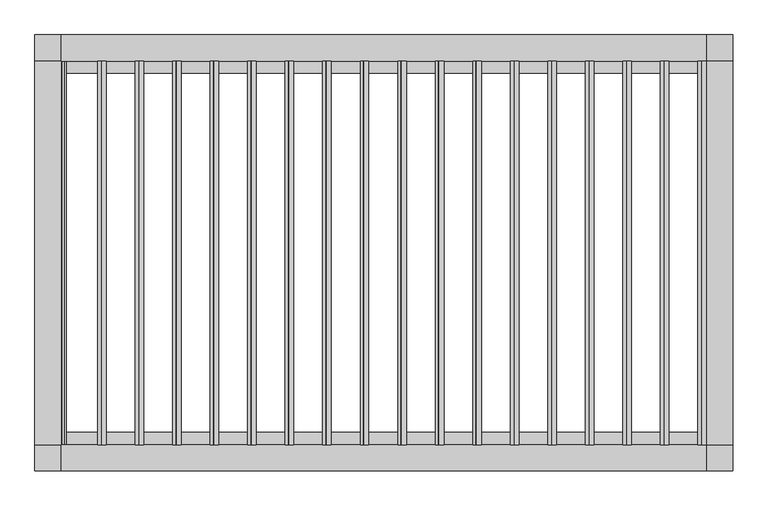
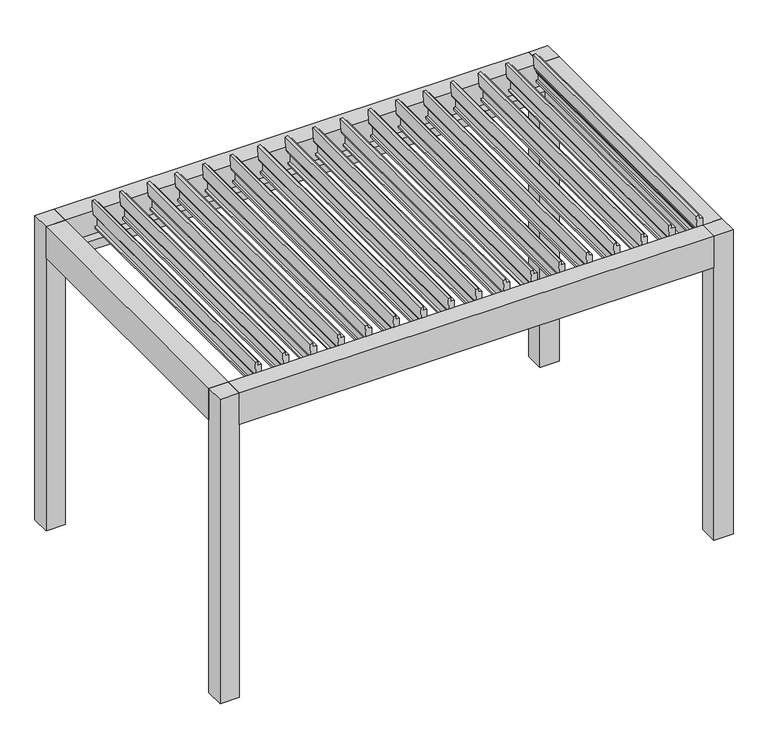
"""IFC4 building model written with IfcOpenShell, lengths in millimetres: proxy geometry, Renson_Camargue_Freestanding_Patio covers : Renson_Camargue_Freestanding_Patio covers."""

import ifcopenshell
import ifcopenshell.guid

model = None  # the IFC model being written
_history = None  # IfcOwnerHistory: only IFC2X3 demands one
_inside = {}  # id of a spatial element -> (the spatial element, [elements in it])
_under = {}  # id of a project, library or spatial element -> (it, [spatial elements below it])
_declared = {}  # id of a project -> (the project, [libraries it declares])
_typed = {}  # id of a type object -> (the type object, [elements of that type])
_made_of = {}  # id of a material, layer set ... -> (it, [elements and type objects made of it])


def new_model(schema):
    """Start an empty IFC model of exactly this schema.

    Asked for "IFC4X3", IfcOpenShell would pick the latest addendum, in which some entities
    have other attributes; the version numbers below select the first issue.
    IFC2X3 requires an IfcOwnerHistory on every rooted entity: one is made here for all.
    """
    global model, _history
    if schema == "IFC4X3":
        model = ifcopenshell.file(schema_version=(4, 3, 0, 0))
    else:
        model = ifcopenshell.file(schema=schema)
    _inside.clear()
    _under.clear()
    _declared.clear()
    _typed.clear()
    _made_of.clear()
    _history = None
    if model.schema == "IFC2X3":
        org = make("IfcOrganization", Name="unknown")
        user = make(
            "IfcPersonAndOrganization",
            ThePerson=make("IfcPerson", FamilyName="unknown"),
            TheOrganization=org,
        )
        app = make(
            "IfcApplication",
            ApplicationDeveloper=org,
            Version="unknown",
            ApplicationFullName="unknown",
            ApplicationIdentifier="unknown",
        )
        _history = make(
            "IfcOwnerHistory",
            OwningUser=user,
            OwningApplication=app,
            ChangeAction="ADDED",
            CreationDate=0,
        )
    return model


def make(cls, **values):
    """One entity of the class cls with the attributes given. An attribute that is None is left unset."""
    return model.create_entity(
        cls, **{name: value for name, value in values.items() if value is not None}
    )


def rooted(cls, **values):
    """An entity with a GlobalId (a new one), such as an element, a storey or a relation."""
    return make(cls, GlobalId=ifcopenshell.guid.new(), OwnerHistory=_history, **values)


def si_unit(unit_type, name, prefix=None):
    """IfcSIUnit, for example si_unit("LENGTHUNIT", "METRE", prefix="MILLI")."""
    return make("IfcSIUnit", UnitType=unit_type, Prefix=prefix, Name=name)


def assignment(units):
    """IfcUnitAssignment: the units of a project."""
    return None if units is None else make("IfcUnitAssignment", Units=units)


def point(xyz):
    """IfcCartesianPoint."""
    return None if xyz is None else make("IfcCartesianPoint", Coordinates=xyz)


def direction(xyz):
    """IfcDirection."""
    return None if xyz is None else make("IfcDirection", DirectionRatios=xyz)


def frame(location, z_axis=None, x_axis=None):
    """IfcAxis2Placement3D, a coordinate frame: its origin and axes. An axis left out is left unset."""
    return make(
        "IfcAxis2Placement3D",
        Location=point(location),
        Axis=direction(z_axis),
        RefDirection=direction(x_axis),
    )


def frame_2d(location, x_axis=None):
    """IfcAxis2Placement2D, a coordinate frame in the plane: its origin and x axis."""
    return make(
        "IfcAxis2Placement2D", Location=point(location), RefDirection=direction(x_axis)
    )


def origin():
    """The frame at (0, 0, 0) with its axes left unset."""
    return frame((0.0, 0.0, 0.0))


def origin_with_axes():
    """The frame at (0, 0, 0) with the z axis (0, 0, 1) and the x axis (1, 0, 0) written out."""
    return frame((0.0, 0.0, 0.0), z_axis=(0.0, 0.0, 1.0), x_axis=(1.0, 0.0, 0.0))


def place(relative_to, where):
    """IfcLocalPlacement: puts the frame where relative to a parent placement (None: the world)."""
    return make(
        "IfcLocalPlacement", PlacementRelTo=relative_to, RelativePlacement=where
    )


def context(
    kind, dimensions, precision=None, world=None, true_north=None, identifier=None
):
    """IfcGeometricRepresentationContext, for example the 3D "Model" context."""
    return make(
        "IfcGeometricRepresentationContext",
        ContextIdentifier=identifier,
        ContextType=kind,
        CoordinateSpaceDimension=dimensions,
        Precision=precision,
        WorldCoordinateSystem=world,
        TrueNorth=true_north,
    )


def project(units=None, contexts=None):
    """IfcProject with its units and contexts."""
    return rooted(
        "IfcProject",
        Name="project",
        RepresentationContexts=contexts,
        UnitsInContext=assignment(units),
    )


def spatial(cls, under=None, at=None, **own):
    """A site, building, storey or space (cls), placed at a placement, below another one or the project."""
    s = rooted(cls, ObjectPlacement=at, **own)
    if under is not None:
        _under.setdefault(under.id(), (under, []))[1].append(s)
    return s


def polyline(points):
    """IfcPolyline through the points."""
    return make("IfcPolyline", Points=[point(p) for p in points])


def circle_curve(where, radius):
    """IfcCircle in the frame where."""
    return make("IfcCircle", Position=where, Radius=radius)


def trimmed(basis, trim1, trim2, sense, master):
    """IfcTrimmedCurve: the piece of a basis curve between two trims."""
    return make(
        "IfcTrimmedCurve",
        BasisCurve=basis,
        Trim1=trim1,
        Trim2=trim2,
        SenseAgreement=sense,
        MasterRepresentation=master,
    )


def segment(curve, same_sense, transition):
    """IfcCompositeCurveSegment."""
    return make(
        "IfcCompositeCurveSegment",
        Transition=transition,
        SameSense=same_sense,
        ParentCurve=curve,
    )


def composite_curve(segments, self_intersect=None):
    """IfcCompositeCurve: segments joined end to end."""
    return make("IfcCompositeCurve", Segments=segments, SelfIntersect=self_intersect)


def outline(outer, holes=None, kind="AREA"):
    """IfcArbitraryClosedProfileDef: a profile drawn as a closed curve; with holes, ...WithVoids."""
    if holes is None:
        return make("IfcArbitraryClosedProfileDef", ProfileType=kind, OuterCurve=outer)
    return make(
        "IfcArbitraryProfileDefWithVoids",
        ProfileType=kind,
        OuterCurve=outer,
        InnerCurves=holes,
    )


def extrude(swept, where, along, depth):
    """IfcExtrudedAreaSolid: the profile swept, set in the frame where, extruded along a direction by depth."""
    return make(
        "IfcExtrudedAreaSolid",
        SweptArea=swept,
        Position=where,
        ExtrudedDirection=direction(along),
        Depth=depth,
    )


def shape(context_of_items, identifier, shape_type, items):
    """IfcShapeRepresentation: the items that make up one representation, for example the "Body"."""
    return make(
        "IfcShapeRepresentation",
        ContextOfItems=context_of_items,
        RepresentationIdentifier=identifier,
        RepresentationType=shape_type,
        Items=items,
    )


def source(mapping_origin, context_of_items, identifier, shape_type, items):
    """IfcRepresentationMap: a shape defined once, which mapped items show again and again."""
    return make(
        "IfcRepresentationMap",
        MappingOrigin=mapping_origin,
        MappedRepresentation=shape(context_of_items, identifier, shape_type, items),
    )


def transform(
    local_origin,
    x_axis=None,
    y_axis=None,
    z_axis=None,
    scale=None,
    scale2=None,
    scale3=None,
    uniform=True,
):
    """IfcCartesianTransformationOperator3D, or its non-uniform kind. x_axis, y_axis, z_axis: its Axis1, 2, 3."""
    if uniform:
        return make(
            "IfcCartesianTransformationOperator3D",
            Axis1=direction(x_axis),
            Axis2=direction(y_axis),
            LocalOrigin=point(local_origin),
            Scale=scale,
            Axis3=direction(z_axis),
        )
    return make(
        "IfcCartesianTransformationOperator3DnonUniform",
        Axis1=direction(x_axis),
        Axis2=direction(y_axis),
        LocalOrigin=point(local_origin),
        Scale=scale,
        Axis3=direction(z_axis),
        Scale2=scale2,
        Scale3=scale3,
    )


def mapped(mapping_source, mapping_target):
    """IfcMappedItem: shows the shape of a source again, moved by a transform."""
    return make(
        "IfcMappedItem", MappingSource=mapping_source, MappingTarget=mapping_target
    )


def made_of(thing, what):
    """Note that an element or type object is made of a material, layer set ...; save() writes the relation."""
    if what is not None:
        _made_of.setdefault(what.id(), (what, []))[1].append(thing)
    return thing


def element(
    cls,
    number,
    at=None,
    inside=None,
    cuts=None,
    type_object=None,
    material=None,
    context=None,
    identifier="Body",
    shape_type=None,
    held_by="IfcProductDefinitionShape",
    body=None,
    shapes=None,
    **own,
):
    """One element of the class cls, such as IfcWall. Its Tag is "e" and its number.

    at: its placement. inside: the storey or other place that contains it. cuts: it is an
    opening in that element (IfcRelVoidsElement). A single representation is given by context,
    identifier, shape_type and body (its items); several are given by shapes. held_by: the class
    of the entity that holds the representations. save() writes the other relations.
    """
    e = rooted(cls, Tag="e%d" % number, ObjectPlacement=at, **own)
    if body is not None:
        shapes = [shape(context, identifier, shape_type, body)]
    if shapes is not None:
        e.Representation = make(held_by, Representations=shapes)
    if inside is not None:
        _inside.setdefault(inside.id(), (inside, []))[1].append(e)
    if cuts is not None:
        rooted(
            "IfcRelVoidsElement", RelatingBuildingElement=cuts, RelatedOpeningElement=e
        )
    if type_object is not None:
        _typed.setdefault(type_object.id(), (type_object, []))[1].append(e)
    return made_of(e, material)


def aggregate(whole, parts):
    """IfcRelAggregates: a whole, such as a stair, and the parts it consists of."""
    return rooted("IfcRelAggregates", RelatingObject=whole, RelatedObjects=parts)


def save(model, path):
    """Write the relations noted so far, then the file.

    IfcRelAggregates (storeys below a building ...), IfcRelContainedInSpatialStructure (elements
    in a storey), IfcRelDefinesByType, IfcRelAssociatesMaterial and IfcRelDeclares: one each for
    every whole, place, type object, material and project.
    """
    for whole, parts in _under.values():
        aggregate(whole, parts)
    for where, things in _inside.values():
        rooted(
            "IfcRelContainedInSpatialStructure",
            RelatedElements=things,
            RelatingStructure=where,
        )
    for kind, things in _typed.values():
        rooted("IfcRelDefinesByType", RelatedObjects=things, RelatingType=kind)
    for what, things in _made_of.values():
        rooted("IfcRelAssociatesMaterial", RelatedObjects=things, RelatingMaterial=what)
    for by, libraries in _declared.values():
        rooted("IfcRelDeclares", RelatingContext=by, RelatedDefinitions=libraries)
    model.write(path)


def generic_models_b33c69de(model_context):
    return source(origin(), model_context, "Body", "SweptSolid", [
        extrude(outline(composite_curve([segment(polyline([(2569.449345, 1634.0362316), (2571.8694547, 1606.3742516), (2600.7047051, 1604.9891952), (2597.2673741, 1585.495122), (2487.2702592, 1590.7786623)]), True, "CONTINUOUS"), segment(trimmed(circle_curve(frame_2d((2487.9899311, 1605.7613881)), 15.0), [point((2487.2702592, 1590.7786623))], [point((2473.2178148, 1603.1566654))], False, "CARTESIAN"), True, "CONTINUOUS"), segment(polyline([(2473.2178148, 1603.1566654), (2469.8271235, 1622.3862316), (2382.0913475, 1622.3862316), (2379.0798901, 1605.3074079), (2363.8029196, 1606.0412134), (2361.3536729, 1634.0362316), (2569.449345, 1634.0362316)]), True, "CONTINUOUS")], self_intersect=False)), frame((0.0, -1100.0, 0.0), z_axis=(0.0, 1.0, 0.0), x_axis=(0.0, 0.0, 1.0)), (0.0, 0.0, 1.0), 2200.0),
        extrude(outline(composite_curve([segment(polyline([(2569.449345, 1419.0254268), (2571.8694547, 1391.3634468), (2600.7047051, 1389.9783904), (2597.2673741, 1370.4843172), (2487.2702592, 1375.7678575)]), True, "CONTINUOUS"), segment(trimmed(circle_curve(frame_2d((2487.9899311, 1390.7505833)), 15.0), [point((2487.2702592, 1375.7678575))], [point((2473.2178148, 1388.1458606))], False, "CARTESIAN"), True, "CONTINUOUS"), segment(polyline([(2473.2178148, 1388.1458606), (2469.8271235, 1407.3754268), (2382.0913475, 1407.3754268), (2379.0798901, 1390.2966031), (2363.8029196, 1391.0304086), (2361.3536729, 1419.0254268), (2569.449345, 1419.0254268)]), True, "CONTINUOUS")], self_intersect=False)), frame((0.0, -1100.0, 0.0), z_axis=(0.0, 1.0, 0.0), x_axis=(0.0, 0.0, 1.0)), (0.0, 0.0, 1.0), 2200.0),
        extrude(outline(composite_curve([segment(polyline([(2569.449345, 1204.014622), (2571.8694547, 1176.3526421), (2600.7047051, 1174.9675857), (2597.2673741, 1155.4735124), (2487.2702592, 1160.7570527)]), True, "CONTINUOUS"), segment(trimmed(circle_curve(frame_2d((2487.9899311, 1175.7397785)), 15.0), [point((2487.2702592, 1160.7570527))], [point((2473.2178148, 1173.1350559))], False, "CARTESIAN"), True, "CONTINUOUS"), segment(polyline([(2473.2178148, 1173.1350559), (2469.8271235, 1192.364622), (2382.0913475, 1192.364622), (2379.0798901, 1175.2857983), (2363.8029196, 1176.0196039), (2361.3536729, 1204.014622), (2569.449345, 1204.014622)]), True, "CONTINUOUS")], self_intersect=False)), frame((0.0, -1100.0, 0.0), z_axis=(0.0, 1.0, 0.0), x_axis=(0.0, 0.0, 1.0)), (0.0, 0.0, 1.0), 2200.0),
        extrude(outline(composite_curve([segment(polyline([(2569.449345, 989.0038172), (2571.8694547, 961.3418373), (2600.7047051, 959.9567809), (2597.2673741, 940.4627076), (2487.2702592, 945.7462479)]), True, "CONTINUOUS"), segment(trimmed(circle_curve(frame_2d((2487.9899311, 960.7289737)), 15.0), [point((2487.2702592, 945.7462479))], [point((2473.2178148, 958.1242511))], False, "CARTESIAN"), True, "CONTINUOUS"), segment(polyline([(2473.2178148, 958.1242511), (2469.8271235, 977.3538172), (2382.0913475, 977.3538172), (2379.0798901, 960.2749936), (2363.8029196, 961.0087991), (2361.3536729, 989.0038172), (2569.449345, 989.0038172)]), True, "CONTINUOUS")], self_intersect=False)), frame((0.0, -1100.0, 0.0), z_axis=(0.0, 1.0, 0.0), x_axis=(0.0, 0.0, 1.0)), (0.0, 0.0, 1.0), 2200.0),
        extrude(outline(composite_curve([segment(polyline([(2569.449345, 773.9930125), (2571.8694547, 746.3310325), (2600.7047051, 744.9459761), (2597.2673741, 725.4519029), (2487.2702592, 730.7354432)]), True, "CONTINUOUS"), segment(trimmed(circle_curve(frame_2d((2487.9899311, 745.718169)), 15.0), [point((2487.2702592, 730.7354432))], [point((2473.2178148, 743.1134463))], False, "CARTESIAN"), True, "CONTINUOUS"), segment(polyline([(2473.2178148, 743.1134463), (2469.8271235, 762.3430125), (2382.0913475, 762.3430125), (2379.0798901, 745.2641888), (2363.8029196, 745.9979943), (2361.3536729, 773.9930125), (2569.449345, 773.9930125)]), True, "CONTINUOUS")], self_intersect=False)), frame((0.0, -1100.0, 0.0), z_axis=(0.0, 1.0, 0.0), x_axis=(0.0, 0.0, 1.0)), (0.0, 0.0, 1.0), 2200.0),
        extrude(outline(composite_curve([segment(polyline([(2569.449345, 558.9822077), (2571.8694547, 531.3202277), (2600.7047051, 529.9351713), (2597.2673741, 510.4410981), (2487.2702592, 515.7246384)]), True, "CONTINUOUS"), segment(trimmed(circle_curve(frame_2d((2487.9899311, 530.7073642)), 15.0), [point((2487.2702592, 515.7246384))], [point((2473.2178148, 528.1026415))], False, "CARTESIAN"), True, "CONTINUOUS"), segment(polyline([(2473.2178148, 528.1026415), (2469.8271235, 547.3322077), (2382.0913475, 547.3322077), (2379.0798901, 530.253384), (2363.8029196, 530.9871895), (2361.3536729, 558.9822077), (2569.449345, 558.9822077)]), True, "CONTINUOUS")], self_intersect=False)), frame((0.0, -1100.0, 0.0), z_axis=(0.0, 1.0, 0.0), x_axis=(0.0, 0.0, 1.0)), (0.0, 0.0, 1.0), 2200.0),
        extrude(outline(composite_curve([segment(polyline([(2569.449345, 343.9714029), (2571.8694547, 316.3094229), (2600.7047051, 314.9243665), (2597.2673741, 295.4302933), (2487.2702592, 300.7138336)]), True, "CONTINUOUS"), segment(trimmed(circle_curve(frame_2d((2487.9899311, 315.6965594)), 15.0), [point((2487.2702592, 300.7138336))], [point((2473.2178148, 313.0918367))], False, "CARTESIAN"), True, "CONTINUOUS"), segment(polyline([(2473.2178148, 313.0918367), (2469.8271235, 332.3214029), (2382.0913475, 332.3214029), (2379.0798901, 315.2425792), (2363.8029196, 315.9763847), (2361.3536729, 343.9714029), (2569.449345, 343.9714029)]), True, "CONTINUOUS")], self_intersect=False)), frame((0.0, -1100.0, 0.0), z_axis=(0.0, 1.0, 0.0), x_axis=(0.0, 0.0, 1.0)), (0.0, 0.0, 1.0), 2200.0),
        extrude(outline(composite_curve([segment(polyline([(2569.449345, 128.9605981), (2571.8694547, 101.2986181), (2600.7047051, 99.9135617), (2597.2673741, 80.4194885), (2487.2702592, 85.7030288)]), True, "CONTINUOUS"), segment(trimmed(circle_curve(frame_2d((2487.9899311, 100.6857546)), 15.0), [point((2487.2702592, 85.7030288))], [point((2473.2178148, 98.081032))], False, "CARTESIAN"), True, "CONTINUOUS"), segment(polyline([(2473.2178148, 98.081032), (2469.8271235, 117.3105981), (2382.0913475, 117.3105981), (2379.0798901, 100.2317744), (2363.8029196, 100.9655799), (2361.3536729, 128.9605981), (2569.449345, 128.9605981)]), True, "CONTINUOUS")], self_intersect=False)), frame((0.0, -1100.0, 0.0), z_axis=(0.0, 1.0, 0.0), x_axis=(0.0, 0.0, 1.0)), (0.0, 0.0, 1.0), 2200.0),
        extrude(outline(composite_curve([segment(polyline([(2569.449345, -86.0502067), (2571.8694547, -113.7121866), (2600.7047051, -115.097243), (2597.2673741, -134.5913163), (2487.2702592, -129.307776)]), True, "CONTINUOUS"), segment(trimmed(circle_curve(frame_2d((2487.9899311, -114.3250502)), 15.0), [point((2487.2702592, -129.307776))], [point((2473.2178148, -116.9297728))], False, "CARTESIAN"), True, "CONTINUOUS"), segment(polyline([(2473.2178148, -116.9297728), (2469.8271235, -97.7002067), (2382.0913475, -97.7002067), (2379.0798901, -114.7790303), (2363.8029196, -114.0452248), (2361.3536729, -86.0502067), (2569.449345, -86.0502067)]), True, "CONTINUOUS")], self_intersect=False)), frame((0.0, -1100.0, 0.0), z_axis=(0.0, 1.0, 0.0), x_axis=(0.0, 0.0, 1.0)), (0.0, 0.0, 1.0), 2200.0),
        extrude(outline(composite_curve([segment(polyline([(2569.449345, -301.0610114), (2571.8694547, -328.7229914), (2600.7047051, -330.1080478), (2597.2673741, -349.6021211), (2487.2702592, -344.3185807)]), True, "CONTINUOUS"), segment(trimmed(circle_curve(frame_2d((2487.9899311, -329.3358549)), 15.0), [point((2487.2702592, -344.3185807))], [point((2473.2178148, -331.9405776))], False, "CARTESIAN"), True, "CONTINUOUS"), segment(polyline([(2473.2178148, -331.9405776), (2469.8271235, -312.7110115), (2382.0913475, -312.7110115), (2379.0798901, -329.7898351), (2363.8029196, -329.0560296), (2361.3536729, -301.0610114), (2569.449345, -301.0610114)]), True, "CONTINUOUS")], self_intersect=False)), frame((0.0, -1100.0, 0.0), z_axis=(0.0, 1.0, 0.0), x_axis=(0.0, 0.0, 1.0)), (0.0, 0.0, 1.0), 2200.0),
        extrude(outline(composite_curve([segment(polyline([(2569.449345, -516.0718162), (2571.8694547, -543.7337962), (2600.7047051, -545.1188526), (2597.2673741, -564.6129258), (2487.2702592, -559.3293855)]), True, "CONTINUOUS"), segment(trimmed(circle_curve(frame_2d((2487.9899311, -544.3466597)), 15.0), [point((2487.2702592, -559.3293855))], [point((2473.2178148, -546.9513824))], False, "CARTESIAN"), True, "CONTINUOUS"), segment(polyline([(2473.2178148, -546.9513824), (2469.8271235, -527.7218162), (2382.0913475, -527.7218162), (2379.0798901, -544.8006399), (2363.8029196, -544.0668344), (2361.3536729, -516.0718162), (2569.449345, -516.0718162)]), True, "CONTINUOUS")], self_intersect=False)), frame((0.0, -1100.0, 0.0), z_axis=(0.0, 1.0, 0.0), x_axis=(0.0, 0.0, 1.0)), (0.0, 0.0, 1.0), 2200.0),
        extrude(outline(composite_curve([segment(polyline([(2569.449345, -731.082621), (2571.8694547, -758.744601), (2600.7047051, -760.1296574), (2597.2673741, -779.6237306), (2487.2702592, -774.3401903)]), True, "CONTINUOUS"), segment(trimmed(circle_curve(frame_2d((2487.9899311, -759.3574645)), 15.0), [point((2487.2702592, -774.3401903))], [point((2473.2178148, -761.9621872))], False, "CARTESIAN"), True, "CONTINUOUS"), segment(polyline([(2473.2178148, -761.9621872), (2469.8271235, -742.732621), (2382.0913475, -742.732621), (2379.0798901, -759.8114447), (2363.8029196, -759.0776392), (2361.3536729, -731.082621), (2569.449345, -731.082621)]), True, "CONTINUOUS")], self_intersect=False)), frame((0.0, -1100.0, 0.0), z_axis=(0.0, 1.0, 0.0), x_axis=(0.0, 0.0, 1.0)), (0.0, 0.0, 1.0), 2200.0),
        extrude(outline(composite_curve([segment(polyline([(2569.449345, -946.0934258), (2571.8694547, -973.7554058), (2600.7047051, -975.1404622), (2597.2673741, -994.6345354), (2487.2702592, -989.3509951)]), True, "CONTINUOUS"), segment(trimmed(circle_curve(frame_2d((2487.9899311, -974.3682693)), 15.0), [point((2487.2702592, -989.3509951))], [point((2473.2178148, -976.972992))], False, "CARTESIAN"), True, "CONTINUOUS"), segment(polyline([(2473.2178148, -976.972992), (2469.8271235, -957.7434258), (2382.0913475, -957.7434258), (2379.0798901, -974.8222495), (2363.8029196, -974.088444), (2361.3536729, -946.0934258), (2569.449345, -946.0934258)]), True, "CONTINUOUS")], self_intersect=False)), frame((0.0, -1100.0, 0.0), z_axis=(0.0, 1.0, 0.0), x_axis=(0.0, 0.0, 1.0)), (0.0, 0.0, 1.0), 2200.0),
        extrude(outline(composite_curve([segment(polyline([(2569.449345, -1161.1042306), (2571.8694547, -1188.7662105), (2600.7047051, -1190.1512669), (2597.2673741, -1209.6453402), (2487.2702592, -1204.3617999)]), True, "CONTINUOUS"), segment(trimmed(circle_curve(frame_2d((2487.9899311, -1189.3790741)), 15.0), [point((2487.2702592, -1204.3617999))], [point((2473.2178148, -1191.9837967))], False, "CARTESIAN"), True, "CONTINUOUS"), segment(polyline([(2473.2178148, -1191.9837967), (2469.8271235, -1172.7542306), (2382.0913475, -1172.7542306), (2379.0798901, -1189.8330543), (2363.8029196, -1189.0992487), (2361.3536729, -1161.1042306), (2569.449345, -1161.1042306)]), True, "CONTINUOUS")], self_intersect=False)), frame((0.0, -1100.0, 0.0), z_axis=(0.0, 1.0, 0.0), x_axis=(0.0, 0.0, 1.0)), (0.0, 0.0, 1.0), 2200.0),
        extrude(outline(composite_curve([segment(polyline([(2569.449345, -1376.1150354), (2571.8694547, -1403.7770153), (2600.7047051, -1405.1620717), (2597.2673741, -1424.656145), (2487.2702592, -1419.3726047)]), True, "CONTINUOUS"), segment(trimmed(circle_curve(frame_2d((2487.9899311, -1404.3898789)), 15.0), [point((2487.2702592, -1419.3726047))], [point((2473.2178148, -1406.9946015))], False, "CARTESIAN"), True, "CONTINUOUS"), segment(polyline([(2473.2178148, -1406.9946015), (2469.8271235, -1387.7650354), (2382.0913475, -1387.7650354), (2379.0798901, -1404.843859), (2363.8029196, -1404.1100535), (2361.3536729, -1376.1150354), (2569.449345, -1376.1150354)]), True, "CONTINUOUS")], self_intersect=False)), frame((0.0, -1100.0, 0.0), z_axis=(0.0, 1.0, 0.0), x_axis=(0.0, 0.0, 1.0)), (0.0, 0.0, 1.0), 2200.0),
        extrude(outline(composite_curve([segment(polyline([(2569.449345, 1849.0470364), (2571.8694547, 1821.3850564), (2600.7047051, 1820.0), (2597.2673741, 1800.5059268), (2487.2702592, 1805.7894671)]), True, "CONTINUOUS"), segment(trimmed(circle_curve(frame_2d((2487.9899311, 1820.7721929)), 15.0), [point((2487.2702592, 1805.7894671))], [point((2473.2178148, 1818.1674702))], False, "CARTESIAN"), True, "CONTINUOUS"), segment(polyline([(2473.2178148, 1818.1674702), (2469.8271235, 1837.3970364), (2382.0913475, 1837.3970364), (2379.0798901, 1820.3182127), (2363.8029196, 1821.0520182), (2361.3536729, 1849.0470364), (2569.449345, 1849.0470364)]), True, "CONTINUOUS")], self_intersect=False)), frame((0.0, -1100.0, 0.0), z_axis=(0.0, 1.0, 0.0), x_axis=(0.0, 0.0, 1.0)), (0.0, 0.0, 1.0), 2200.0),
        extrude(outline(composite_curve([segment(polyline([(2569.449345, -1591.1258401), (2571.8694547, -1618.7878201), (2600.7047051, -1620.1728765), (2597.2673741, -1639.6669497), (2487.2702592, -1634.3834094)]), True, "CONTINUOUS"), segment(trimmed(circle_curve(frame_2d((2487.9899311, -1619.4006836)), 15.0), [point((2487.2702592, -1634.3834094))], [point((2473.2178148, -1622.0054063))], False, "CARTESIAN"), True, "CONTINUOUS"), segment(polyline([(2473.2178148, -1622.0054063), (2469.8271235, -1602.7758401), (2382.0913475, -1602.7758401), (2379.0798901, -1619.8546638), (2363.8029196, -1619.1208583), (2361.3536729, -1591.1258401), (2569.449345, -1591.1258401)]), True, "CONTINUOUS")], self_intersect=False)), frame((0.0, -1100.0, 0.0), z_axis=(0.0, 1.0, 0.0), x_axis=(0.0, 0.0, 1.0)), (0.0, 0.0, 1.0), 2200.0),
        extrude(outline(polyline([(2441.6559373, -1850.0), (2441.6559373, -1824.0), (2455.6555802, -1820.2487113), (2455.6555802, -1829.5940945), (2471.400763, -1845.0), (2479.2449277, -1845.0), (2479.6823598, -1850.0), (2441.6559373, -1850.0)])), frame((0.0, -1100.0, 0.0), z_axis=(0.0, 1.0, 0.0), x_axis=(0.0, 0.0, 1.0)), (0.0, 0.0, 1.0), 2200.0),
        extrude(outline(polyline([(-1850.0, -1100.0), (-2000.0, -1100.0), (-2000.0, 1100.0), (-1850.0, 1100.0), (-1850.0, -1100.0)])), frame((0.0, 0.0, 2250.0), z_axis=(0.0, 0.0, 1.0), x_axis=(1.0, 0.0, 0.0)), (0.0, 0.0, 1.0), 260.0),
        extrude(outline(polyline([(2510.0, 2000.0), (2510.0, 1850.0), (2479.6904658, 1850.0), (2479.2449277, 1845.0), (2471.400763, 1845.0), (2455.6555802, 1829.2544156), (2455.6555802, 1819.9090324), (2441.6559373, 1823.6603211), (2441.6559373, 1850.0), (2250.0, 1850.0), (2250.0, 2000.0), (2510.0, 2000.0)])), frame((0.0, -1100.0, 0.0), z_axis=(0.0, 1.0, 0.0), x_axis=(0.0, 0.0, 1.0)), (0.0, 0.0, 1.0), 2200.0),
        extrude(outline(polyline([(-1100.0, 2510.0), (-1100.0, 2322.0), (-1030.0000001, 2322.0), (-1030.0000001, 2250.0), (-1250.0, 2250.0), (-1250.0, 2510.0), (-1100.0, 2510.0)])), frame((-1850.0, 0.0, 0.0), z_axis=(1.0, 0.0, 0.0), x_axis=(0.0, 1.0, 0.0)), (0.0, 0.0, 1.0), 3700.0),
        extrude(outline(polyline([(1250.0, 2250.0), (1030.0000001, 2250.0), (1030.0000001, 2322.0), (1100.0, 2322.0), (1100.0, 2510.0), (1250.0, 2510.0), (1250.0, 2250.0)])), frame((-1850.0, 0.0, 0.0), z_axis=(1.0, 0.0, 0.0), x_axis=(0.0, 1.0, 0.0)), (0.0, 0.0, 1.0), 3700.0),
        extrude(outline(polyline([(-1850.0, 1250.0), (-1850.0, 1100.0), (-2000.0, 1100.0), (-2000.0, 1250.0), (-1850.0, 1250.0)])), origin_with_axes(), (0.0, 0.0, 1.0), 2510.0),
        extrude(outline(polyline([(2000.0, 1250.0), (2000.0, 1100.0), (1850.0, 1100.0), (1850.0, 1250.0), (2000.0, 1250.0)])), origin_with_axes(), (0.0, 0.0, 1.0), 2510.0),
        extrude(outline(polyline([(2000.0, -1100.0), (2000.0, -1250.0), (1850.0, -1250.0), (1850.0, -1100.0), (2000.0, -1100.0)])), origin_with_axes(), (0.0, 0.0, 1.0), 2510.0),
        extrude(outline(polyline([(-1850.0, -1100.0), (-1850.0, -1250.0), (-2000.0, -1250.0), (-2000.0, -1100.0), (-1850.0, -1100.0)])), origin_with_axes(), (0.0, 0.0, 1.0), 2510.0),
    ])


if __name__ == "__main__":
    model = new_model("IFC4")
    model_context = context("Model", 3, world=origin())
    ifc_project = project(units=[si_unit("LENGTHUNIT", "METRE", prefix="MILLI")], contexts=[model_context])
    site = spatial("IfcSite", under=ifc_project)
    building = spatial("IfcBuilding", under=site)
    placement = place(None, origin())
    generic_models_shape = generic_models_b33c69de(model_context)
    element("IfcBuildingElementProxy", 1, Name="Renson_Camargue_Freestanding_Patio covers : Renson_Camargue_Freestanding_Patio covers", ObjectType="Renson_Camargue_Freestanding_Patio covers : Renson_Camargue_Freestanding_Patio covers", at=placement, inside=building, context=model_context, shape_type="MappedRepresentation", body=[
        mapped(generic_models_shape, transform((0.0, 0.0, 0.0), x_axis=(1.0, 0.0, 0.0), y_axis=(0.0, 1.0, 0.0), z_axis=(0.0, 0.0, 1.0))),
    ])
    save(model, "model.ifc")
